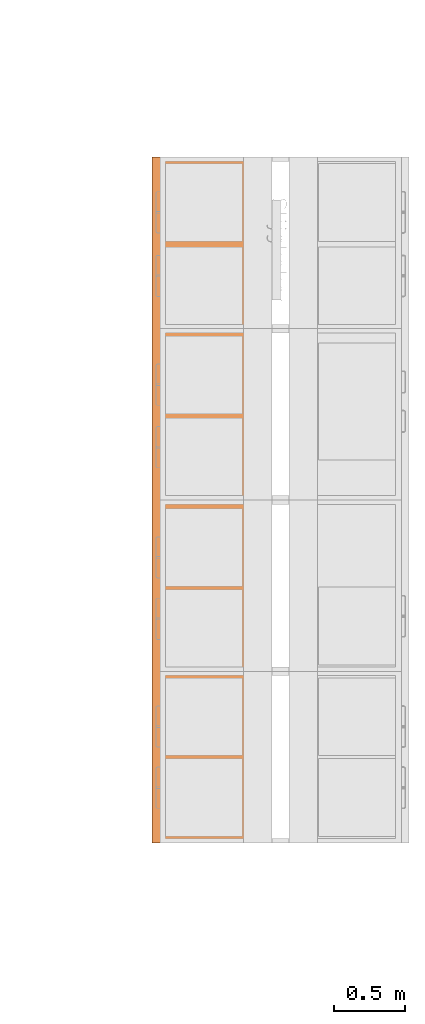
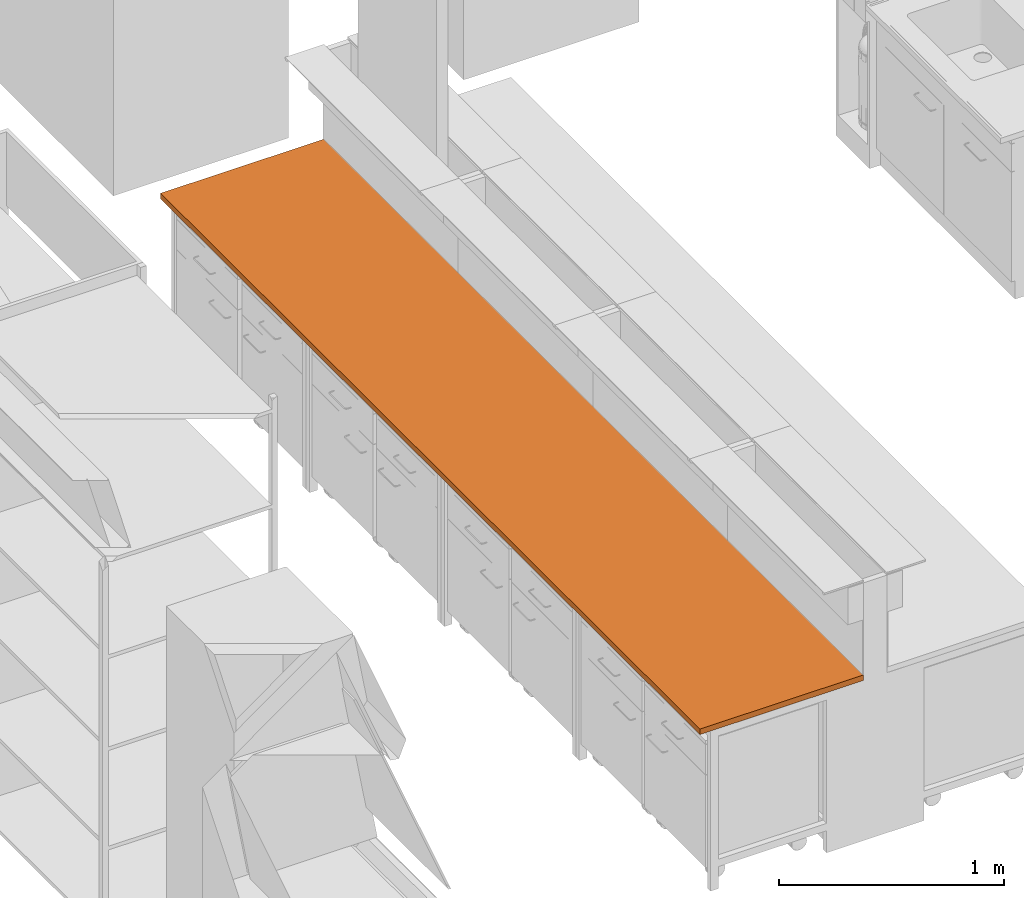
# One storey, part 4 of 43: 1 proxy.
"""IFC2X3 building model written with IfcOpenShell, lengths in metres."""

import ifcopenshell
import ifcopenshell.guid

model = None  # the IFC model being written
_history = None  # IfcOwnerHistory: only IFC2X3 demands one
_inside = {}  # id of a spatial element -> (the spatial element, [elements in it])
_under = {}  # id of a project, library or spatial element -> (it, [spatial elements below it])
_declared = {}  # id of a project -> (the project, [libraries it declares])
_typed = {}  # id of a type object -> (the type object, [elements of that type])
_made_of = {}  # id of a material, layer set ... -> (it, [elements and type objects made of it])


def new_model(schema):
    """Start an empty IFC model of exactly this schema.

    Asked for "IFC4X3", IfcOpenShell would pick the latest addendum, in which some entities
    have other attributes; the version numbers below select the first issue.
    IFC2X3 requires an IfcOwnerHistory on every rooted entity: one is made here for all.
    """
    global model, _history
    if schema == "IFC4X3":
        model = ifcopenshell.file(schema_version=(4, 3, 0, 0))
    else:
        model = ifcopenshell.file(schema=schema)
    _inside.clear()
    _under.clear()
    _declared.clear()
    _typed.clear()
    _made_of.clear()
    _history = None
    if model.schema == "IFC2X3":
        org = make("IfcOrganization", Name="unknown")
        user = make(
            "IfcPersonAndOrganization",
            ThePerson=make("IfcPerson", FamilyName="unknown"),
            TheOrganization=org,
        )
        app = make(
            "IfcApplication",
            ApplicationDeveloper=org,
            Version="unknown",
            ApplicationFullName="unknown",
            ApplicationIdentifier="unknown",
        )
        _history = make(
            "IfcOwnerHistory",
            OwningUser=user,
            OwningApplication=app,
            ChangeAction="ADDED",
            CreationDate=0,
        )
    return model


def make(cls, **values):
    """One entity of the class cls with the attributes given. An attribute that is None is left unset."""
    return model.create_entity(
        cls, **{name: value for name, value in values.items() if value is not None}
    )


def entity(cls, *values):
    """Any entity or typed value of the class cls, its attributes in the order of the schema. None: left unset."""
    e = model.create_entity(cls)
    for i, value in enumerate(values):
        if value is not None:
            e[i] = value
    return e


def rooted(cls, **values):
    """An entity with a GlobalId (a new one), such as an element, a storey or a relation."""
    return make(cls, GlobalId=ifcopenshell.guid.new(), OwnerHistory=_history, **values)


def si_unit(unit_type, name, prefix=None):
    """IfcSIUnit, for example si_unit("LENGTHUNIT", "METRE", prefix="MILLI")."""
    return make("IfcSIUnit", UnitType=unit_type, Prefix=prefix, Name=name)


def converted_unit(unit_type, name, factor, base, dimensions=None, offset=None):
    """IfcConversionBasedUnit, such as the inch: factor (a typed value) times the base unit."""
    return make(
        "IfcConversionBasedUnit"
        if offset is None
        else "IfcConversionBasedUnitWithOffset",
        ConversionOffset=offset,
        Dimensions=None
        if dimensions is None
        else entity("IfcDimensionalExponents", *dimensions),
        UnitType=unit_type,
        Name=name,
        ConversionFactor=make(
            "IfcMeasureWithUnit", ValueComponent=factor, UnitComponent=base
        ),
    )


def derived_unit(unit_type, elements):
    """IfcDerivedUnit: a product of units, each with its exponent."""
    return make(
        "IfcDerivedUnit",
        Elements=[
            make("IfcDerivedUnitElement", Unit=unit, Exponent=power)
            for unit, power in elements
        ],
        UnitType=unit_type,
    )


def assignment(units):
    """IfcUnitAssignment: the units of a project."""
    return None if units is None else make("IfcUnitAssignment", Units=units)


def point(xyz):
    """IfcCartesianPoint."""
    return None if xyz is None else make("IfcCartesianPoint", Coordinates=xyz)


def direction(xyz):
    """IfcDirection."""
    return None if xyz is None else make("IfcDirection", DirectionRatios=xyz)


def frame(location, z_axis=None, x_axis=None):
    """IfcAxis2Placement3D, a coordinate frame: its origin and axes. An axis left out is left unset."""
    return make(
        "IfcAxis2Placement3D",
        Location=point(location),
        Axis=direction(z_axis),
        RefDirection=direction(x_axis),
    )


def frame_2d(location, x_axis=None):
    """IfcAxis2Placement2D, a coordinate frame in the plane: its origin and x axis."""
    return make(
        "IfcAxis2Placement2D", Location=point(location), RefDirection=direction(x_axis)
    )


def origin():
    """The frame at (0, 0, 0) with its axes left unset."""
    return frame((0.0, 0.0, 0.0))


def origin_2d_with_axis():
    """The frame at (0, 0) in the plane with the x axis (1, 0) written out."""
    return frame_2d((0.0, 0.0), x_axis=(1.0, 0.0))


def place(relative_to, where):
    """IfcLocalPlacement: puts the frame where relative to a parent placement (None: the world)."""
    return make(
        "IfcLocalPlacement", PlacementRelTo=relative_to, RelativePlacement=where
    )


def context(
    kind, dimensions, precision=None, world=None, true_north=None, identifier=None
):
    """IfcGeometricRepresentationContext, for example the 3D "Model" context."""
    return make(
        "IfcGeometricRepresentationContext",
        ContextIdentifier=identifier,
        ContextType=kind,
        CoordinateSpaceDimension=dimensions,
        Precision=precision,
        WorldCoordinateSystem=world,
        TrueNorth=true_north,
    )


def subcontext(parent, identifier, kind, view, scale=None):
    """IfcGeometricRepresentationSubContext, for example "Body" below "Model"."""
    return make(
        "IfcGeometricRepresentationSubContext",
        ContextIdentifier=identifier,
        ContextType=kind,
        ParentContext=parent,
        TargetScale=scale,
        TargetView=view,
    )


def project(units=None, contexts=None):
    """IfcProject with its units and contexts."""
    return rooted(
        "IfcProject",
        Name="project",
        RepresentationContexts=contexts,
        UnitsInContext=assignment(units),
    )


def spatial(cls, under=None, at=None, **own):
    """A site, building, storey or space (cls), placed at a placement, below another one or the project."""
    s = rooted(cls, ObjectPlacement=at, **own)
    if under is not None:
        _under.setdefault(under.id(), (under, []))[1].append(s)
    return s


def profile(cls, at=None, kind="AREA", **sizes):
    """A parametric profile (cls). Its sizes go by their IFC names, for example OverallWidth=200.0."""
    return make(cls, ProfileType=kind, Position=at, **sizes)


def rectangle(**sizes):
    """IfcRectangleProfileDef."""
    return profile("IfcRectangleProfileDef", **sizes)


def extrude(swept, where, along, depth):
    """IfcExtrudedAreaSolid: the profile swept, set in the frame where, extruded along a direction by depth."""
    return make(
        "IfcExtrudedAreaSolid",
        SweptArea=swept,
        Position=where,
        ExtrudedDirection=direction(along),
        Depth=depth,
    )


def shape(context_of_items, identifier, shape_type, items):
    """IfcShapeRepresentation: the items that make up one representation, for example the "Body"."""
    return make(
        "IfcShapeRepresentation",
        ContextOfItems=context_of_items,
        RepresentationIdentifier=identifier,
        RepresentationType=shape_type,
        Items=items,
    )


def source(mapping_origin, context_of_items, identifier, shape_type, items):
    """IfcRepresentationMap: a shape defined once, which mapped items show again and again."""
    return make(
        "IfcRepresentationMap",
        MappingOrigin=mapping_origin,
        MappedRepresentation=shape(context_of_items, identifier, shape_type, items),
    )


def transform(
    local_origin,
    x_axis=None,
    y_axis=None,
    z_axis=None,
    scale=None,
    scale2=None,
    scale3=None,
    uniform=True,
):
    """IfcCartesianTransformationOperator3D, or its non-uniform kind. x_axis, y_axis, z_axis: its Axis1, 2, 3."""
    if uniform:
        return make(
            "IfcCartesianTransformationOperator3D",
            Axis1=direction(x_axis),
            Axis2=direction(y_axis),
            LocalOrigin=point(local_origin),
            Scale=scale,
            Axis3=direction(z_axis),
        )
    return make(
        "IfcCartesianTransformationOperator3DnonUniform",
        Axis1=direction(x_axis),
        Axis2=direction(y_axis),
        LocalOrigin=point(local_origin),
        Scale=scale,
        Axis3=direction(z_axis),
        Scale2=scale2,
        Scale3=scale3,
    )


def mapped(mapping_source, mapping_target):
    """IfcMappedItem: shows the shape of a source again, moved by a transform."""
    return make(
        "IfcMappedItem", MappingSource=mapping_source, MappingTarget=mapping_target
    )


def material(Name=None, Category=None):
    """IfcMaterial."""
    return make("IfcMaterial", Name=Name, Category=Category)


def material_list(materials):
    """IfcMaterialList."""
    return make("IfcMaterialList", Materials=materials)


def made_of(thing, what):
    """Note that an element or type object is made of a material, layer set ...; save() writes the relation."""
    if what is not None:
        _made_of.setdefault(what.id(), (what, []))[1].append(thing)
    return thing


def type_object(cls, material=None, **own):
    """A type object (cls), such as IfcWallType, which elements share."""
    return made_of(rooted(cls, **own), material)


def type_shapes(of_type, sources):
    """Give a type object the sources (RepresentationMaps) that its elements show as mapped items."""
    of_type.RepresentationMaps = sources


def element(
    cls,
    number,
    at=None,
    inside=None,
    cuts=None,
    type_object=None,
    material=None,
    context=None,
    identifier="Body",
    shape_type=None,
    held_by="IfcProductDefinitionShape",
    body=None,
    shapes=None,
    **own,
):
    """One element of the class cls, such as IfcWall. Its Tag is "e" and its number.

    at: its placement. inside: the storey or other place that contains it. cuts: it is an
    opening in that element (IfcRelVoidsElement). A single representation is given by context,
    identifier, shape_type and body (its items); several are given by shapes. held_by: the class
    of the entity that holds the representations. save() writes the other relations.
    """
    e = rooted(cls, Tag="e%d" % number, ObjectPlacement=at, **own)
    if body is not None:
        shapes = [shape(context, identifier, shape_type, body)]
    if shapes is not None:
        e.Representation = make(held_by, Representations=shapes)
    if inside is not None:
        _inside.setdefault(inside.id(), (inside, []))[1].append(e)
    if cuts is not None:
        rooted(
            "IfcRelVoidsElement", RelatingBuildingElement=cuts, RelatedOpeningElement=e
        )
    if type_object is not None:
        _typed.setdefault(type_object.id(), (type_object, []))[1].append(e)
    return made_of(e, material)


def aggregate(whole, parts):
    """IfcRelAggregates: a whole, such as a stair, and the parts it consists of."""
    return rooted("IfcRelAggregates", RelatingObject=whole, RelatedObjects=parts)


def save(model, path):
    """Write the relations noted so far, then the file.

    IfcRelAggregates (storeys below a building ...), IfcRelContainedInSpatialStructure (elements
    in a storey), IfcRelDefinesByType, IfcRelAssociatesMaterial and IfcRelDeclares: one each for
    every whole, place, type object, material and project.
    """
    for whole, parts in _under.values():
        aggregate(whole, parts)
    for where, things in _inside.values():
        rooted(
            "IfcRelContainedInSpatialStructure",
            RelatedElements=things,
            RelatingStructure=where,
        )
    for kind, things in _typed.values():
        rooted("IfcRelDefinesByType", RelatedObjects=things, RelatingType=kind)
    for what, things in _made_of.values():
        rooted("IfcRelAssociatesMaterial", RelatedObjects=things, RelatingMaterial=what)
    for by, libraries in _declared.values():
        rooted("IfcRelDeclares", RelatingContext=by, RelatedDefinitions=libraries)
    model.write(path)


model = new_model("IFC2X3")

# Units and contexts
model_context = context("Model", 3, precision=1e-05, world=origin(), true_north=direction((6.12303176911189e-17, 1.0)))
body_context = subcontext(model_context, "Body", "Model", "MODEL_VIEW")
ifc_project = project(units=[si_unit("LENGTHUNIT", "METRE"), si_unit("AREAUNIT", "SQUARE_METRE"), si_unit("VOLUMEUNIT", "CUBIC_METRE"), converted_unit("PLANEANGLEUNIT", "DEGREE", entity("IfcRatioMeasure", 0.0174532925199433), si_unit("PLANEANGLEUNIT", "RADIAN"), dimensions=[0, 0, 0, 0, 0, 0, 0]), si_unit("MASSUNIT", "GRAM", prefix="KILO"), derived_unit("MASSDENSITYUNIT", [(si_unit("MASSUNIT", "GRAM", prefix="KILO"), 1), (si_unit("LENGTHUNIT", "METRE"), -3)]), derived_unit("MOMENTOFINERTIAUNIT", [(si_unit("LENGTHUNIT", "METRE"), 4)]), si_unit("TIMEUNIT", "SECOND"), si_unit("FREQUENCYUNIT", "HERTZ"), si_unit("THERMODYNAMICTEMPERATUREUNIT", "DEGREE_CELSIUS"), derived_unit("THERMALTRANSMITTANCEUNIT", [(si_unit("MASSUNIT", "GRAM", prefix="KILO"), 1), (si_unit("THERMODYNAMICTEMPERATUREUNIT", "KELVIN"), -1), (si_unit("TIMEUNIT", "SECOND"), -3)]), derived_unit("VOLUMETRICFLOWRATEUNIT", [(si_unit("LENGTHUNIT", "METRE"), 3), (si_unit("TIMEUNIT", "SECOND"), -1)]), si_unit("ELECTRICCURRENTUNIT", "AMPERE"), si_unit("ELECTRICVOLTAGEUNIT", "VOLT"), si_unit("POWERUNIT", "WATT"), si_unit("FORCEUNIT", "NEWTON", prefix="KILO"), si_unit("ILLUMINANCEUNIT", "LUX"), si_unit("LUMINOUSFLUXUNIT", "LUMEN"), si_unit("LUMINOUSINTENSITYUNIT", "CANDELA"), derived_unit("USERDEFINED", [(si_unit("MASSUNIT", "GRAM", prefix="KILO"), -1), (si_unit("LENGTHUNIT", "METRE"), -2), (si_unit("TIMEUNIT", "SECOND"), 3), (si_unit("LUMINOUSFLUXUNIT", "LUMEN"), 1)]), derived_unit("LINEARVELOCITYUNIT", [(si_unit("LENGTHUNIT", "METRE"), 1), (si_unit("TIMEUNIT", "SECOND"), -1)]), si_unit("PRESSUREUNIT", "PASCAL"), derived_unit("USERDEFINED", [(si_unit("LENGTHUNIT", "METRE"), -2), (si_unit("MASSUNIT", "GRAM", prefix="KILO"), 1), (si_unit("TIMEUNIT", "SECOND"), -2)]), derived_unit("LINEARFORCEUNIT", [(si_unit("MASSUNIT", "GRAM", prefix="KILO"), 1), (si_unit("LENGTHUNIT", "METRE"), 1), (si_unit("TIMEUNIT", "SECOND"), -2), (si_unit("LENGTHUNIT", "METRE"), -1)]), derived_unit("PLANARFORCEUNIT", [(si_unit("MASSUNIT", "GRAM", prefix="KILO"), 1), (si_unit("LENGTHUNIT", "METRE"), 1), (si_unit("TIMEUNIT", "SECOND"), -2), (si_unit("LENGTHUNIT", "METRE"), -2)])], contexts=[model_context])

# Site, building, storey
site_placement = place(None, origin())
site = spatial("IfcSite", under=ifc_project, at=site_placement, Name="Default", CompositionType="ELEMENT")
building_placement = place(site_placement, origin())
building = spatial("IfcBuilding", under=site, at=building_placement, CompositionType="ELEMENT")
storey_placement = place(building_placement, frame((0.0, 0.0, 3.0)))
storey = spatial("IfcBuildingStorey", under=building, at=storey_placement, Name="01 OG", CompositionType="ELEMENT", Elevation=3.0)

# Proxy
ifc_material_1 = material(Name="Arbeitsplatte mit fester Oberfläche")
ifc_material_2 = material(Name="Phenolharz")
ifc_material_list_1 = material_list([ifc_material_1, ifc_material_2])
ifc_material_list_2 = material_list([ifc_material_2, ifc_material_1])
building_element_proxy_type = type_object("IfcBuildingElementProxyType", Name="dh_Tischplatte PH:TP PH", PredefinedType="NOTDEFINED", material=ifc_material_list_2)
shared_shape = source(origin(), body_context, "Body", "SweptSolid", [
    extrude(rectangle(XDim=4.79999999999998, YDim=0.840000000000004, at=origin_2d_with_axis()), frame((0.0447003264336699, -0.420000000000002, 0.871999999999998), z_axis=(0.0, 0.0, 1.0), x_axis=(-1.0, 0.0, 0.0)), (0.0, 0.0, 1.0), 0.0260000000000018),
    extrude(rectangle(XDim=4.79999999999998, YDim=0.840000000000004, at=origin_2d_with_axis()), frame((0.0447003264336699, -0.420000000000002, 0.869999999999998), z_axis=(0.0, 0.0, 1.0), x_axis=(-1.0, 0.0, 0.0)), (0.0, 0.0, 1.0), 0.00199999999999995),
    extrude(rectangle(XDim=4.79999999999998, YDim=0.840000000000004, at=origin_2d_with_axis()), frame((0.0447003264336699, -0.420000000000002, 0.898), z_axis=(0.0, 0.0, 1.0), x_axis=(-1.0, 0.0, 0.0)), (0.0, 0.0, 1.0), 0.00200000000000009),
])
type_shapes(building_element_proxy_type, [shared_shape])
proxy_placement = place(storey_placement, frame((13.54, 13.9687003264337, 0.7), z_axis=(0.0, 0.0, 1.0), x_axis=(0.0, -1.0, 0.0)))
element("IfcBuildingElementProxy", 1, at=proxy_placement, inside=storey, type_object=building_element_proxy_type, material=ifc_material_list_1, Name="dh_Tischplatte PH:TP PH", ObjectType="dh_Tischplatte PH:TP PH", context=body_context, shape_type="MappedRepresentation", body=[
    mapped(shared_shape, transform((0.0, 0.0, 0.0), scale=1.0)),
])

save(model, "model.ifc")
